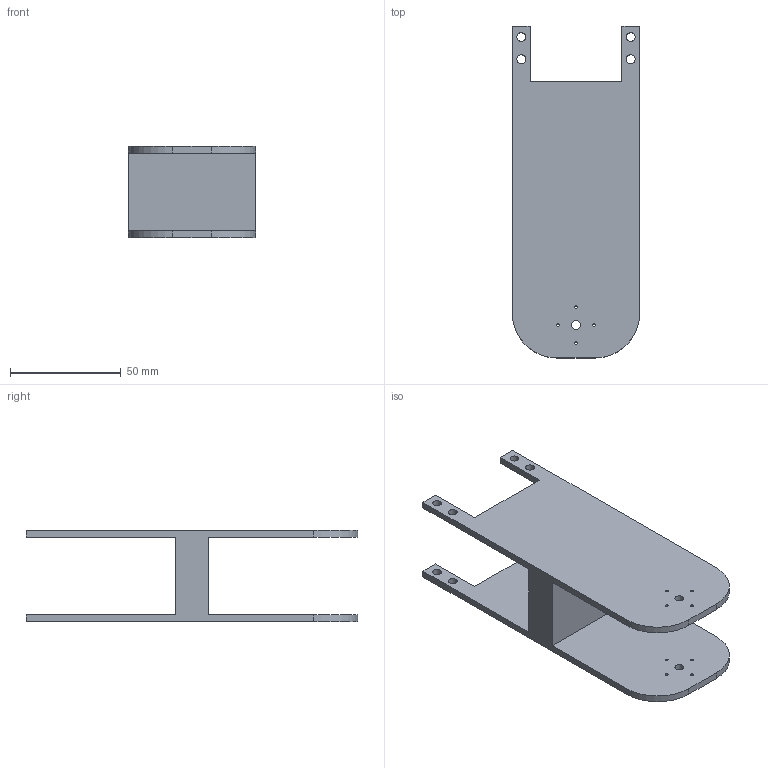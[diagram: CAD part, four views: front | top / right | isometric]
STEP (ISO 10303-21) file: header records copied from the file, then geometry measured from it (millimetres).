
FILE_DESCRIPTION(/* description */ ('STEP AP242','CAx-IF Rec.Pracs.---Representation and Presentation of Product Manufacturing Information (PMI)---4.0---2014-10-13','CAx-IF Rec.Pracs.---3D Tessellated Geometry---0.4---2014-09-14','2;1'),/* implementation_level */ '2;1');
FILE_NAME(/* name */ '65dac114f3c31e2e3b9e2015',/* time_stamp */ '2024-02-25T04:24:52Z',/* author */ (''),/* organization */ (''),/* preprocessor_version */ 'ST-DEVELOPER v19.4',/* originating_system */ ' ',/* authorisation */ ' ');
FILE_SCHEMA (('AP242_MANAGED_MODEL_BASED_3D_ENGINEERING_MIM_LF { 1 0 10303 442 1 1 4 }'));
Length unit declared in the file: metre
Products named in the file (1): Part 1
Bounding box: 57.5 x 150 x 41.29 mm (x, y, z)
Volume: 76405.4 mm3; surface area: 36054.6 mm2
Topology: 1 solids, 1 shells, 44 faces, 126 edges, 84 vertices
Faces by surface type: plane 22, cylinder 22
Full cylindrical faces by diameter (mm): 1.28 x8, 4 x10
Entity records: 1458 total; most frequent: DIRECTION 242, CARTESIAN_POINT 237, ORIENTED_EDGE 216, EDGE_CURVE 108, EDGE_LOOP 98, FACE_BOUND 98, AXIS2_PLACEMENT_3D 89, VERTEX_POINT 84
